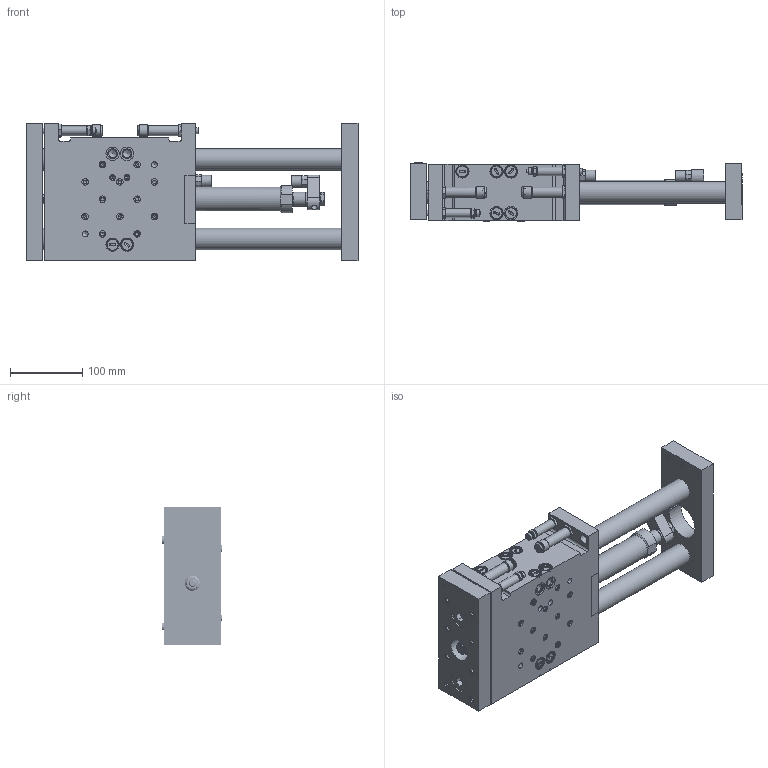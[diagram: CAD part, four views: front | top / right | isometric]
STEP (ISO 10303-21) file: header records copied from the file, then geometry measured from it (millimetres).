
FILE_DESCRIPTION((''),'2;1');
FILE_NAME('V:\CAD\Inventor-Stp\Linearelemente\Kugelbüchsenführungen\GLE 32\inv\1000046\1000046.stp','2007-05-29T08:15:17',('is'),(''),'Autodesk Inventor 10','Autodesk Inventor 10','');
FILE_SCHEMA(('AUTOMOTIVE_DESIGN { 1 0 10303 214 1 1 1 1 }'));
Length unit declared in the file: millimetre
Products named in the file (3): 1000046; 1000046-a; 1000046-b
Assembly tree (2 placements, depth 2):
  1000046
    1000046-a
    1000046-b
Bounding box: 460 x 82.9 x 190 mm (x, y, z)
Volume: 3376246 mm3; surface area: 590028.2 mm2
Topology: 78 solids, 91 shells, 1702 faces, 3779 edges, 2433 vertices
Faces by surface type: plane 615, bspline 477, cylinder 296, cone 233, torus 81
Full cylindrical faces by diameter (mm): 1 x4, 1.4 x2, 1.97 x2, 2 x8, 2.3 x2, 3.4 x2, 3.5 x2, 3.6 x2, 4 x8, 4.2 x2, 4.3 x2, 5 x9, 5.5 x1, 6 x3, 6.8 x2, 7.2 x2, 7.3 x2, 7.4 x2, 7.8 x2, 8 x8, 8.2 x2, 8.4 x2, 8.5 x4, 9 x6, 9.2 x2, 9.7 x4, 10 x6, 10.5 x1, 11 x2, 11.4 x15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
Entity records: 49141 total; most frequent: CARTESIAN_POINT 18089, DIRECTION 6159, ORIENTED_EDGE 5144, EDGE_LOOP 2928, AXIS2_PLACEMENT_3D 2677, EDGE_CURVE 2572, VERTEX_POINT 2049, FACE_OUTER_BOUND 1692
